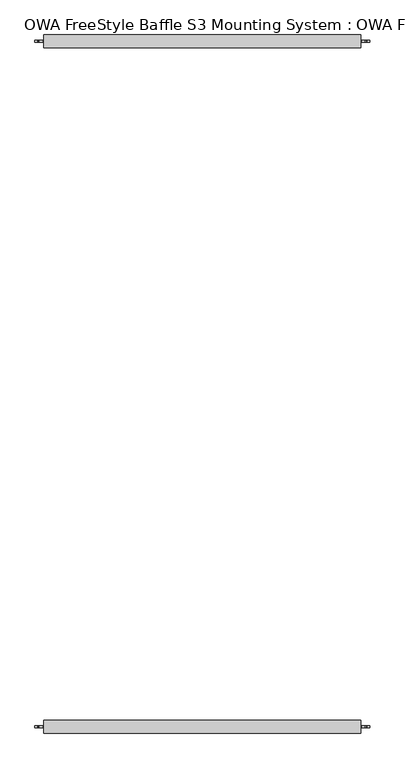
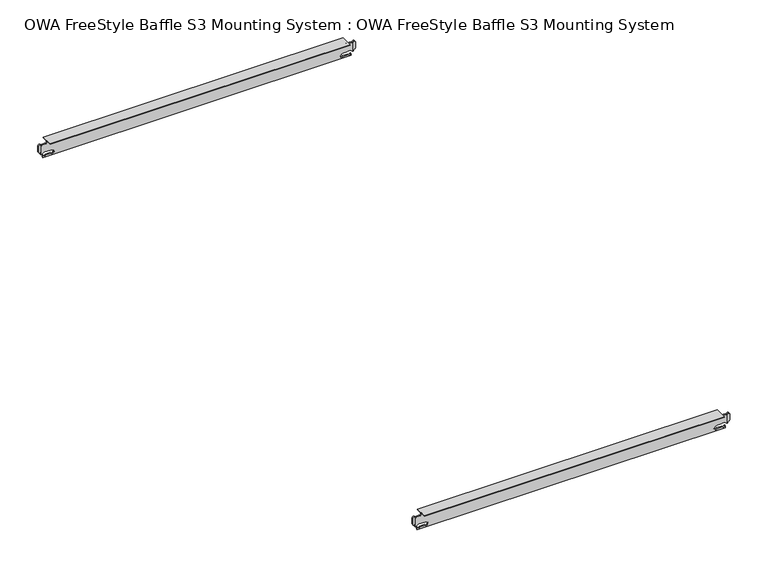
"""IFC4 building model written with IfcOpenShell, lengths in millimetres: proxy geometry, OWA FreeStyle Baffle S3 Mounting System : OWA FreeStyle Baffle S3 Mounting System."""

from ifc_helpers import new_model, si_unit, frame, origin, place, context, project, spatial, polyline, circle_curve, source, transform, mapped, element, save
from ifc_brep_helpers import plane_surface, cylinder_surface, revolved_surface, advanced_brep


def owa_freestyle_baffle_s3_mounting_system_owa_freestyle_baffle_da7934dc(model_context):
    return source(origin(), model_context, "Body", "AdvancedBrep", [
        advanced_brep(
        [(-733.95, -1501.5, 498.8), (-733.95, -1501.5, 496.0), (-735.45, -1501.5, 494.5), (-742.8857864, -1501.5, 494.5), (-744.8857864, -1501.5, 492.5), (-745.7, -1501.5, 492.5), (-745.7, -1501.5, 475.5), (-744.85, -1501.5, 475.5), (-741.35, -1501.5, 479.0), (-735.65, -1501.5, 479.0), (-734.75, -1501.5, 478.1), (-725.45, -1501.5, 478.1), (-720.4764351, -1501.5, 472.5865295), (-721.1954506, -1501.5, 471.0754978), (-723.7247963, -1501.5, 468.5461521), (-726.2283497, -1501.5, 471.0497055), (-735.9464466, -1501.5, 471.0497055), (-738.45, -1501.5, 468.5461521), (-740.9535534, -1501.5, 471.0497055), (-742.75, -1501.5, 471.0497055), (-742.75, -1501.5, 467.4497055), (-124.25, -1501.5, 467.4497055), (-124.25, -1501.5, 471.0497055), (-126.0464466, -1501.5, 471.0497055), (-128.55, -1501.5, 468.5461521), (-131.0535534, -1501.5, 471.0497055), (-140.7716503, -1501.5, 471.0497055), (-143.2752037, -1501.5, 468.5461521), (-145.8045494, -1501.5, 471.0754978), (-146.5235649, -1501.5, 472.5865295), (-141.55, -1501.5, 478.1), (-132.25, -1501.5, 478.1), (-131.35, -1501.5, 479.0), (-125.65, -1501.5, 479.0), (-122.15, -1501.5, 475.5), (-121.3, -1501.5, 475.5), (-121.3, -1501.5, 492.5), (-122.1142136, -1501.5, 492.5), (-124.1142136, -1501.5, 494.5), (-131.55, -1501.5, 494.5), (-133.05, -1501.5, 496.0), (-133.05, -1501.5, 498.8), (-133.05, -1498.5, 498.8), (-133.05, -1498.5, 496.0), (-131.55, -1498.5, 494.5), (-124.1142136, -1498.5, 494.5), (-122.1142136, -1498.5, 492.5), (-121.3, -1498.5, 492.5), (-121.3, -1498.5, 475.5), (-122.15, -1498.5, 475.5), (-125.65, -1498.5, 479.0), (-131.35, -1498.5, 479.0), (-132.25, -1498.5, 478.1), (-141.55, -1498.5, 478.1), (-146.5235649, -1498.5, 472.5865295), (-145.8045494, -1498.5, 471.0754978), (-143.2752037, -1498.5, 468.5461521), (-140.7716503, -1498.5, 471.0497055), (-131.0535534, -1498.5, 471.0497055), (-128.55, -1498.5, 468.5461521), (-126.0464466, -1498.5, 471.0497055), (-124.25, -1498.5, 471.0497055), (-124.25, -1498.5, 467.4497055), (-742.75, -1498.5, 467.4497055), (-742.75, -1498.5, 471.0497055), (-740.9535534, -1498.5, 471.0497055), (-738.45, -1498.5, 468.5461521), (-735.9464466, -1498.5, 471.0497055), (-726.2283497, -1498.5, 471.0497055), (-723.7247963, -1498.5, 468.5461521), (-721.1954506, -1498.5, 471.0754978), (-720.4764351, -1498.5, 472.5865295), (-725.45, -1498.5, 478.1), (-734.75, -1498.5, 478.1), (-735.65, -1498.5, 479.0), (-741.35, -1498.5, 479.0), (-744.85, -1498.5, 475.5), (-745.7, -1498.5, 475.5), (-745.7, -1498.5, 492.5), (-744.8857864, -1498.5, 492.5), (-742.8857864, -1498.5, 494.5), (-735.45, -1498.5, 494.5), (-733.95, -1498.5, 496.0), (-733.95, -1498.5, 498.8), (-733.95, -1512.0, 498.8), (-133.05, -1512.0, 498.8), (-133.05, -1512.0, 500.0), (-733.95, -1512.0, 500.0), (-733.95, -1488.0, 498.8), (-733.95, -1488.0, 500.0), (-133.05, -1488.0, 500.0), (-133.05, -1488.0, 498.8)],
        [
            (0, 1),
            (1, 2, circle_curve(frame((-735.45, -1501.5, 496.0), z_axis=(0.0, 1.0, 0.0), x_axis=(1.0, 0.0, 0.0)), 1.5)),
            (2, 3),
            (3, 4),
            (4, 5),
            (5, 6),
            (6, 7),
            (7, 8),
            (8, 9),
            (9, 10),
            (10, 11),
            (11, 12, circle_curve(frame((-725.45, -1501.5, 473.1), z_axis=(0.0, 1.0, 0.0), x_axis=(1.0, 0.0, 0.0)), 5.0)),
            (12, 13, circle_curve(frame((-722.9632175, -1501.5, 472.8432648), z_axis=(0.0, 1.0, 0.0), x_axis=(1.0, 0.0, 0.0)), 2.5)),
            (13, 14),
            (14, 15),
            (15, 16),
            (16, 17),
            (17, 18),
            (18, 19),
            (19, 20),
            (20, 21),
            (21, 22),
            (22, 23),
            (23, 24),
            (24, 25),
            (25, 26),
            (26, 27),
            (27, 28),
            (28, 29, circle_curve(frame((-144.0367825, -1501.5, 472.8432648), z_axis=(0.0, 1.0, 0.0), x_axis=(-1.0, 0.0, 0.0)), 2.5)),
            (29, 30, circle_curve(frame((-141.55, -1501.5, 473.1), z_axis=(0.0, 1.0, 0.0), x_axis=(-1.0, 0.0, 0.0)), 5.0)),
            (30, 31),
            (31, 32),
            (32, 33),
            (33, 34),
            (34, 35),
            (35, 36),
            (36, 37),
            (37, 38),
            (38, 39),
            (39, 40, circle_curve(frame((-131.55, -1501.5, 496.0), z_axis=(0.0, 1.0, 0.0), x_axis=(-1.0, 0.0, 0.0)), 1.5)),
            (40, 41),
            (41, 0),
            (42, 43),
            (43, 44, circle_curve(frame((-131.55, -1498.5, 496.0), z_axis=(0.0, -1.0, 0.0), x_axis=(-1.0, 0.0, 0.0)), 1.5)),
            (44, 45),
            (45, 46),
            (46, 47),
            (47, 48),
            (48, 49),
            (49, 50),
            (50, 51),
            (51, 52),
            (52, 53),
            (53, 54, circle_curve(frame((-141.55, -1498.5, 473.1), z_axis=(0.0, -1.0, 0.0), x_axis=(-1.0, 0.0, 0.0)), 5.0)),
            (54, 55, circle_curve(frame((-144.0367825, -1498.5, 472.8432648), z_axis=(0.0, -1.0, 0.0), x_axis=(-1.0, 0.0, 0.0)), 2.5)),
            (55, 56),
            (56, 57),
            (57, 58),
            (58, 59),
            (59, 60),
            (60, 61),
            (61, 62),
            (62, 63),
            (63, 64),
            (64, 65),
            (65, 66),
            (66, 67),
            (67, 68),
            (68, 69),
            (69, 70),
            (70, 71, circle_curve(frame((-722.9632175, -1498.5, 472.8432648), z_axis=(0.0, -1.0, 0.0), x_axis=(1.0, 0.0, 0.0)), 2.5)),
            (71, 72, circle_curve(frame((-725.45, -1498.5, 473.1), z_axis=(0.0, -1.0, 0.0), x_axis=(1.0, 0.0, 0.0)), 5.0)),
            (72, 73),
            (73, 74),
            (74, 75),
            (75, 76),
            (76, 77),
            (77, 78),
            (78, 79),
            (79, 80),
            (80, 81),
            (81, 82, circle_curve(frame((-735.45, -1498.5, 496.0), z_axis=(0.0, -1.0, 0.0), x_axis=(1.0, 0.0, 0.0)), 1.5)),
            (82, 83),
            (83, 42),
            (84, 85),
            (85, 86),
            (86, 87),
            (87, 84),
            (88, 89),
            (89, 90),
            (90, 91),
            (91, 88),
            (84, 0),
            (41, 85),
            (91, 42),
            (83, 88),
            (20, 63),
            (62, 21),
            (86, 90),
            (89, 87),
            (82, 1),
            (81, 2),
            (80, 3),
            (79, 4),
            (78, 5),
            (77, 6),
            (76, 7),
            (75, 8),
            (74, 9),
            (73, 10),
            (72, 11),
            (71, 12),
            (70, 13),
            (69, 14),
            (68, 15),
            (67, 16),
            (66, 17),
            (65, 18),
            (64, 19),
            (61, 22),
            (60, 23),
            (59, 24),
            (58, 25),
            (57, 26),
            (56, 27),
            (55, 28),
            (54, 29),
            (53, 30),
            (52, 31),
            (51, 32),
            (50, 33),
            (49, 34),
            (48, 35),
            (47, 36),
            (46, 37),
            (45, 38),
            (44, 39),
            (43, 40),
        ],
        [
            plane_surface(frame((-733.95, -1501.5, 496.0), z_axis=(0.0, -1.0, 0.0), x_axis=(0.0, 0.0, -1.0))),
            plane_surface(frame((-733.95, -1498.5, 496.0), z_axis=(0.0, 1.0, 0.0), x_axis=(0.0, 0.0, 1.0))),
            plane_surface(frame((-133.0, -1512.0, 498.8), z_axis=(0.0, -1.0, 0.0), x_axis=(1.0, 0.0, 0.0))),
            plane_surface(frame((-133.0, -1488.0, 498.8), z_axis=(0.0, 1.0, 0.0), x_axis=(-1.0, 0.0, 0.0))),
            plane_surface(frame((-733.95, -1512.0, 498.8), z_axis=(0.0, 0.0, -1.0), x_axis=(0.0, 1.0, 0.0))),
            plane_surface(frame((-742.75, -1501.5, 467.4497055), z_axis=(0.0, 0.0, -1.0), x_axis=(0.0, 1.0, 0.0))),
            plane_surface(frame((-133.05, -1512.0, 500.0), z_axis=(0.0, 0.0, 1.0), x_axis=(0.0, 1.0, 0.0))),
            plane_surface(frame((-733.95, -1501.5, 498.8), z_axis=(-1.0, 0.0, 0.0), x_axis=(0.0, 1.0, 0.0))),
            revolved_surface(polyline([(-733.95, -1498.5, 496.0), (-733.95, -1501.5, 496.0)]), (-735.45, -1498.5, 496.0), (0.0, 1.0, 0.0)),
            plane_surface(frame((-735.45, -1501.5, 494.5), z_axis=(0.0, 0.0, 1.0), x_axis=(0.0, 1.0, 0.0))),
            plane_surface(frame((-742.8857864, -1501.5, 494.5), z_axis=(-0.7071067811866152, 0.0, 0.7071067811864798), x_axis=(0.0, 1.0, 0.0))),
            plane_surface(frame((-744.8857864, -1501.5, 492.5), z_axis=(0.0, 0.0, 1.0), x_axis=(0.0, 1.0, 0.0))),
            plane_surface(frame((-745.7, -1501.5, 492.5), z_axis=(-1.0, 0.0, 0.0), x_axis=(0.0, 1.0, 0.0))),
            plane_surface(frame((-745.7, -1501.5, 475.5), z_axis=(0.0, 0.0, -1.0), x_axis=(0.0, 1.0, 0.0))),
            plane_surface(frame((-744.85, -1501.5, 475.5), z_axis=(0.707106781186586, 0.0, -0.707106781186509), x_axis=(0.0, 1.0, 0.0))),
            plane_surface(frame((-741.35, -1501.5, 479.0), z_axis=(0.0, 0.0, -1.0), x_axis=(0.0, 1.0, 0.0))),
            plane_surface(frame((-735.65, -1501.5, 479.0), z_axis=(-0.707106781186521, 0.0, -0.7071067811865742), x_axis=(0.0, 1.0, 0.0))),
            plane_surface(frame((-734.75, -1501.5, 478.1), z_axis=(0.0, 0.0, -1.0), x_axis=(0.0, 1.0, 0.0))),
            revolved_surface(polyline([(-720.45, -1498.5, 473.1), (-720.45, -1501.5, 473.1)]), (-725.45, -1498.5, 473.1), (0.0, 1.0, 0.0)),
            revolved_surface(polyline([(-720.4632175, -1498.5, 472.8432648), (-720.4632175, -1501.5, 472.8432648)]), (-722.9632175, -1498.5, 472.8432648), (0.0, 1.0, 0.0)),
            plane_surface(frame((-721.1954506, -1501.5, 471.0754978), z_axis=(-0.707106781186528, 0.0, 0.7071067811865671), x_axis=(0.0, 1.0, 0.0))),
            plane_surface(frame((-723.7247963, -1501.5, 468.5461521), z_axis=(0.7071067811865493, 0.0, 0.7071067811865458), x_axis=(0.0, 1.0, 0.0))),
            plane_surface(frame((-726.2283497, -1501.5, 471.0497055), z_axis=(0.0, 0.0, 1.0), x_axis=(0.0, 1.0, 0.0))),
            plane_surface(frame((-735.9464466, -1501.5, 471.0497055), z_axis=(-0.7071067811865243, 0.0, 0.7071067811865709), x_axis=(0.0, 1.0, 0.0))),
            plane_surface(frame((-738.45, -1501.5, 468.5461521), z_axis=(0.7071067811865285, 0.0, 0.7071067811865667), x_axis=(0.0, 1.0, 0.0))),
            plane_surface(frame((-740.9535534, -1501.5, 471.0497055), z_axis=(0.0, 0.0, 1.0), x_axis=(0.0, 1.0, 0.0))),
            plane_surface(frame((-742.75, -1501.5, 471.0497055), z_axis=(-1.0, 0.0, 0.0), x_axis=(0.0, 1.0, 0.0))),
            plane_surface(frame((-124.25, -1501.5, 467.4497055), z_axis=(1.0, 0.0, 0.0), x_axis=(0.0, 1.0, 0.0))),
            plane_surface(frame((-124.25, -1501.5, 471.0497055), z_axis=(0.0, 0.0, 1.0), x_axis=(0.0, 1.0, 0.0))),
            plane_surface(frame((-126.0464466, -1501.5, 471.0497055), z_axis=(-0.7071067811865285, 0.0, 0.7071067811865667), x_axis=(0.0, 1.0, 0.0))),
            plane_surface(frame((-128.55, -1501.5, 468.5461521), z_axis=(0.7071067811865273, 0.0, 0.7071067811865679), x_axis=(0.0, 1.0, 0.0))),
            plane_surface(frame((-131.0535534, -1501.5, 471.0497055), z_axis=(0.0, 0.0, 1.0), x_axis=(0.0, 1.0, 0.0))),
            plane_surface(frame((-140.7716503, -1501.5, 471.0497055), z_axis=(-0.7071067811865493, 0.0, 0.7071067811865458), x_axis=(0.0, 1.0, 0.0))),
            plane_surface(frame((-143.2752037, -1501.5, 468.5461521), z_axis=(0.7071067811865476, 0.0, 0.7071067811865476), x_axis=(0.0, 1.0, 0.0))),
            revolved_surface(polyline([(-146.5367825, -1498.5, 472.8432648), (-146.5367825, -1501.5, 472.8432648)]), (-144.0367825, -1498.5, 472.8432648), (0.0, 1.0, 0.0)),
            revolved_surface(polyline([(-146.55, -1498.5, 473.1), (-146.55, -1501.5, 473.1)]), (-141.55, -1498.5, 473.1), (0.0, 1.0, 0.0)),
            plane_surface(frame((-141.55, -1501.5, 478.1), z_axis=(0.0, 0.0, -1.0), x_axis=(0.0, 1.0, 0.0))),
            plane_surface(frame((-132.25, -1501.5, 478.1), z_axis=(0.707106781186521, 0.0, -0.7071067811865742), x_axis=(0.0, 1.0, 0.0))),
            plane_surface(frame((-131.35, -1501.5, 479.0), z_axis=(0.0, 0.0, -1.0), x_axis=(0.0, 1.0, 0.0))),
            plane_surface(frame((-125.65, -1501.5, 479.0), z_axis=(-0.7071067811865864, 0.0, -0.7071067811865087), x_axis=(0.0, 1.0, 0.0))),
            plane_surface(frame((-122.15, -1501.5, 475.5), z_axis=(0.0, 0.0, -1.0), x_axis=(0.0, 1.0, 0.0))),
            plane_surface(frame((-121.3, -1501.5, 475.5), z_axis=(1.0, 0.0, 0.0), x_axis=(0.0, 1.0, 0.0))),
            plane_surface(frame((-121.3, -1501.5, 492.5), z_axis=(0.0, 0.0, 1.0), x_axis=(0.0, 1.0, 0.0))),
            plane_surface(frame((-122.1142136, -1501.5, 492.5), z_axis=(0.7071067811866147, 0.0, 0.7071067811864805), x_axis=(0.0, 1.0, 0.0))),
            plane_surface(frame((-124.1142136, -1501.5, 494.5), z_axis=(0.0, 0.0, 1.0), x_axis=(0.0, 1.0, 0.0))),
            revolved_surface(polyline([(-133.05, -1498.5, 496.0), (-133.05, -1501.5, 496.0)]), (-131.55, -1498.5, 496.0), (0.0, 1.0, 0.0)),
            plane_surface(frame((-133.05, -1501.5, 496.0), z_axis=(1.0, 0.0, 0.0), x_axis=(0.0, 1.0, 0.0))),
        ],
        [
            (0, [[1, 2, 3, 4, 5, 6, 7, 8, 9, 10, 11, 12, 13, 14, 15, 16, 17, 18, 19, 20, 21, 22, 23, 24, 25, 26, 27, 28, 29, 30, 31, 32, 33, 34, 35, 36, 37, 38, 39, 40, 41, 42]]),
            (1, [[43, 44, 45, 46, 47, 48, 49, 50, 51, 52, 53, 54, 55, 56, 57, 58, 59, 60, 61, 62, 63, 64, 65, 66, 67, 68, 69, 70, 71, 72, 73, 74, 75, 76, 77, 78, 79, 80, 81, 82, 83, 84]]),
            (2, [[85, 86, 87, 88]]),
            (3, [[89, 90, 91, 92]]),
            (4, [[-85, 93, -42, 94]]),
            (4, [[-92, 95, -84, 96]]),
            (5, [[-21, 97, -63, 98]]),
            (6, [[-87, 99, -90, 100]]),
            (7, [[-1, -93, -88, -100, -89, -96, -83, 101]]),
            (8, [[-2, -101, -82, 102]]),
            (9, [[-3, -102, -81, 103]]),
            (10, [[-4, -103, -80, 104]]),
            (11, [[-5, -104, -79, 105]]),
            (12, [[-6, -105, -78, 106]]),
            (13, [[-7, -106, -77, 107]]),
            (14, [[-8, -107, -76, 108]]),
            (15, [[-9, -108, -75, 109]]),
            (16, [[-10, -109, -74, 110]]),
            (17, [[-11, -110, -73, 111]]),
            (18, [[-12, -111, -72, 112]]),
            (19, [[-13, -112, -71, 113]]),
            (20, [[-14, -113, -70, 114]]),
            (21, [[-15, -114, -69, 115]]),
            (22, [[-16, -115, -68, 116]]),
            (23, [[-17, -116, -67, 117]]),
            (24, [[-18, -117, -66, 118]]),
            (25, [[-19, -118, -65, 119]]),
            (26, [[-20, -119, -64, -97]]),
            (27, [[-22, -98, -62, 120]]),
            (28, [[-23, -120, -61, 121]]),
            (29, [[-24, -121, -60, 122]]),
            (30, [[-25, -122, -59, 123]]),
            (31, [[-26, -123, -58, 124]]),
            (32, [[-27, -124, -57, 125]]),
            (33, [[-28, -125, -56, 126]]),
            (34, [[-29, -126, -55, 127]]),
            (35, [[-30, -127, -54, 128]]),
            (36, [[-31, -128, -53, 129]]),
            (37, [[-32, -129, -52, 130]]),
            (38, [[-33, -130, -51, 131]]),
            (39, [[-34, -131, -50, 132]]),
            (40, [[-35, -132, -49, 133]]),
            (41, [[-36, -133, -48, 134]]),
            (42, [[-37, -134, -47, 135]]),
            (43, [[-38, -135, -46, 136]]),
            (44, [[-39, -136, -45, 137]]),
            (45, [[-40, -137, -44, 138]]),
            (46, [[-41, -138, -43, -95, -91, -99, -86, -94]]),
        ],
    ),
        advanced_brep(
        [(-750.95, -1501.5, 493.7), (-750.95, -1501.5, 481.3), (-748.8268982, -1501.5, 479.3037921), (-747.2752053, -1501.5, 477.844841), (-747.2752053, -1501.5, 475.5), (-746.3, -1501.5, 475.5), (-746.3, -1501.5, 493.7), (-750.95, -1498.5, 493.7), (-746.3, -1498.5, 493.7), (-746.3, -1498.5, 475.5), (-747.2752053, -1498.5, 475.5), (-747.2752053, -1498.5, 477.844841), (-748.8268982, -1498.5, 479.3037921), (-750.95, -1498.5, 481.3)],
        [
            (0, 1),
            (1, 2, circle_curve(frame((-748.95, -1501.5, 481.3), z_axis=(0.0, -1.0, 0.0), x_axis=(1.0, 0.0, 0.0)), 2.0)),
            (2, 3, circle_curve(frame((-748.7369279, -1501.5, 477.844841), z_axis=(0.0, 1.0, 0.0), x_axis=(-1.0, 0.0, 0.0)), 1.4617226)),
            (3, 4),
            (4, 5),
            (5, 6),
            (6, 0, circle_curve(frame((-748.625, -1501.5, 493.7), z_axis=(0.0, -1.0, 0.0), x_axis=(-1.0, 0.0, 0.0)), 2.325)),
            (7, 8, circle_curve(frame((-748.625, -1498.5, 493.7), z_axis=(0.0, 1.0, 0.0), x_axis=(-1.0, 0.0, 0.0)), 2.325)),
            (8, 9),
            (9, 10),
            (10, 11),
            (11, 12, circle_curve(frame((-748.7369279, -1498.5, 477.844841), z_axis=(0.0, -1.0, 0.0), x_axis=(-1.0, 0.0, 0.0)), 1.4617226)),
            (12, 13, circle_curve(frame((-748.95, -1498.5, 481.3), z_axis=(0.0, 1.0, 0.0), x_axis=(1.0, 0.0, 0.0)), 2.0)),
            (13, 7),
            (0, 7),
            (13, 1),
            (12, 2),
            (11, 3),
            (10, 4),
            (9, 5),
            (8, 6),
        ],
        [
            plane_surface(frame((-733.95, -1501.5, 496.0), z_axis=(0.0, -1.0, 0.0), x_axis=(0.0, 0.0, -1.0))),
            plane_surface(frame((-733.95, -1498.5, 496.0), z_axis=(0.0, 1.0, 0.0), x_axis=(0.0, 0.0, 1.0))),
            plane_surface(frame((-750.95, -1501.5, 493.7), z_axis=(-1.0, 0.0, 0.0), x_axis=(0.0, 1.0, 0.0))),
            cylinder_surface(frame((-748.95, -1500.0, 481.3), z_axis=(0.0, -1.0, 0.0), x_axis=(1.0, 0.0, 0.0)), 2.0),
            revolved_surface(polyline([(-750.1986505, -1498.5, 477.844841), (-750.1986505, -1501.5, 477.844841)]), (-748.7369279, -1500.0, 477.844841), (0.0, 1.0, 0.0)),
            plane_surface(frame((-747.2752053, -1501.5, 477.844841), z_axis=(-1.0, 0.0, 0.0), x_axis=(0.0, 1.0, 0.0))),
            plane_surface(frame((-747.2752053, -1501.5, 475.5), z_axis=(0.0, 0.0, -1.0), x_axis=(0.0, 1.0, 0.0))),
            plane_surface(frame((-746.3, -1501.5, 475.5), z_axis=(1.0, 0.0, 0.0), x_axis=(0.0, 1.0, 0.0))),
            cylinder_surface(frame((-748.625, -1500.0, 493.7), z_axis=(0.0, -1.0, 0.0), x_axis=(-1.0, 0.0, 0.0)), 2.325),
        ],
        [
            (0, [[1, 2, 3, 4, 5, 6, 7]]),
            (1, [[8, 9, 10, 11, 12, 13, 14]]),
            (2, [[-1, 15, -14, 16]]),
            (3, [[-2, -16, -13, 17]]),
            (4, [[-3, -17, -12, 18]]),
            (5, [[-4, -18, -11, 19]]),
            (6, [[-5, -19, -10, 20]]),
            (7, [[-6, -20, -9, 21]]),
            (8, [[-7, -21, -8, -15]]),
        ],
    ),
        advanced_brep(
        [(-116.05, -1501.5, 493.7), (-120.7, -1501.5, 493.7), (-120.7, -1501.5, 475.5), (-119.7247947, -1501.5, 475.5), (-119.7247947, -1501.5, 477.844841), (-118.1731018, -1501.5, 479.3037921), (-116.05, -1501.5, 481.3), (-116.05, -1498.5, 493.7), (-116.05, -1498.5, 481.3), (-118.1731018, -1498.5, 479.3037921), (-119.7247947, -1498.5, 477.844841), (-119.7247947, -1498.5, 475.5), (-120.7, -1498.5, 475.5), (-120.7, -1498.5, 493.7)],
        [
            (0, 1, circle_curve(frame((-118.375, -1501.5, 493.7), z_axis=(0.0, -1.0, 0.0), x_axis=(1.0, 0.0, 0.0)), 2.325)),
            (1, 2),
            (2, 3),
            (3, 4),
            (4, 5, circle_curve(frame((-118.2630721, -1501.5, 477.844841), z_axis=(0.0, 1.0, 0.0), x_axis=(1.0, 0.0, 0.0)), 1.4617226)),
            (5, 6, circle_curve(frame((-118.05, -1501.5, 481.3), z_axis=(0.0, -1.0, 0.0), x_axis=(-1.0, 0.0, 0.0)), 2.0)),
            (6, 0),
            (7, 8),
            (8, 9, circle_curve(frame((-118.05, -1498.5, 481.3), z_axis=(0.0, 1.0, 0.0), x_axis=(-1.0, 0.0, 0.0)), 2.0)),
            (9, 10, circle_curve(frame((-118.2630721, -1498.5, 477.844841), z_axis=(0.0, -1.0, 0.0), x_axis=(1.0, 0.0, 0.0)), 1.4617226)),
            (10, 11),
            (11, 12),
            (12, 13),
            (13, 7, circle_curve(frame((-118.375, -1498.5, 493.7), z_axis=(0.0, 1.0, 0.0), x_axis=(1.0, 0.0, 0.0)), 2.325)),
            (0, 7),
            (13, 1),
            (12, 2),
            (11, 3),
            (10, 4),
            (9, 5),
            (8, 6),
        ],
        [
            plane_surface(frame((-733.95, -1501.5, 496.0), z_axis=(0.0, -1.0, 0.0), x_axis=(0.0, 0.0, -1.0))),
            plane_surface(frame((-733.95, -1498.5, 496.0), z_axis=(0.0, 1.0, 0.0), x_axis=(0.0, 0.0, 1.0))),
            cylinder_surface(frame((-118.375, -1500.0, 493.7), z_axis=(0.0, -1.0, 0.0), x_axis=(1.0, 0.0, 0.0)), 2.325),
            plane_surface(frame((-120.7, -1501.5, 493.7), z_axis=(-1.0, 0.0, 0.0), x_axis=(0.0, 1.0, 0.0))),
            plane_surface(frame((-120.7, -1501.5, 475.5), z_axis=(0.0, 0.0, -1.0), x_axis=(0.0, 1.0, 0.0))),
            plane_surface(frame((-119.7247947, -1501.5, 475.5), z_axis=(1.0, 0.0, 0.0), x_axis=(0.0, 1.0, 0.0))),
            revolved_surface(polyline([(-116.8013495, -1498.5, 477.844841), (-116.8013495, -1501.5, 477.844841)]), (-118.2630721, -1500.0, 477.844841), (0.0, 1.0, 0.0)),
            cylinder_surface(frame((-118.05, -1500.0, 481.3), z_axis=(0.0, -1.0, 0.0), x_axis=(-1.0, 0.0, 0.0)), 2.0),
            plane_surface(frame((-116.05, -1501.5, 481.3), z_axis=(1.0, 0.0, 0.0), x_axis=(0.0, 1.0, 0.0))),
        ],
        [
            (0, [[1, 2, 3, 4, 5, 6, 7]]),
            (1, [[8, 9, 10, 11, 12, 13, 14]]),
            (2, [[-1, 15, -14, 16]]),
            (3, [[-2, -16, -13, 17]]),
            (4, [[-3, -17, -12, 18]]),
            (5, [[-4, -18, -11, 19]]),
            (6, [[-5, -19, -10, 20]]),
            (7, [[-6, -20, -9, 21]]),
            (8, [[-7, -21, -8, -15]]),
        ],
    ),
        advanced_brep(
        [(-733.95, -2801.5, 498.8), (-733.95, -2801.5, 496.0), (-735.45, -2801.5, 494.5), (-742.8857864, -2801.5, 494.5), (-744.8857864, -2801.5, 492.5), (-745.7, -2801.5, 492.5), (-745.7, -2801.5, 475.5), (-744.85, -2801.5, 475.5), (-741.35, -2801.5, 479.0), (-735.65, -2801.5, 479.0), (-734.75, -2801.5, 478.1), (-725.45, -2801.5, 478.1), (-720.4764351, -2801.5, 472.5865295), (-721.1954506, -2801.5, 471.0754978), (-723.7247963, -2801.5, 468.5461521), (-726.2283497, -2801.5, 471.0497055), (-735.9464466, -2801.5, 471.0497055), (-738.45, -2801.5, 468.5461521), (-740.9535534, -2801.5, 471.0497055), (-742.75, -2801.5, 471.0497055), (-742.75, -2801.5, 467.4497055), (-124.25, -2801.5, 467.4497055), (-124.25, -2801.5, 471.0497055), (-126.0464466, -2801.5, 471.0497055), (-128.55, -2801.5, 468.5461521), (-131.0535534, -2801.5, 471.0497055), (-140.7716503, -2801.5, 471.0497055), (-143.2752037, -2801.5, 468.5461521), (-145.8045494, -2801.5, 471.0754978), (-146.5235649, -2801.5, 472.5865295), (-141.55, -2801.5, 478.1), (-132.25, -2801.5, 478.1), (-131.35, -2801.5, 479.0), (-125.65, -2801.5, 479.0), (-122.15, -2801.5, 475.5), (-121.3, -2801.5, 475.5), (-121.3, -2801.5, 492.5), (-122.1142136, -2801.5, 492.5), (-124.1142136, -2801.5, 494.5), (-131.55, -2801.5, 494.5), (-133.05, -2801.5, 496.0), (-133.05, -2801.5, 498.8), (-133.05, -2798.5, 498.8), (-133.05, -2798.5, 496.0), (-131.55, -2798.5, 494.5), (-124.1142136, -2798.5, 494.5), (-122.1142136, -2798.5, 492.5), (-121.3, -2798.5, 492.5), (-121.3, -2798.5, 475.5), (-122.15, -2798.5, 475.5), (-125.65, -2798.5, 479.0), (-131.35, -2798.5, 479.0), (-132.25, -2798.5, 478.1), (-141.55, -2798.5, 478.1), (-146.5235649, -2798.5, 472.5865295), (-145.8045494, -2798.5, 471.0754978), (-143.2752037, -2798.5, 468.5461521), (-140.7716503, -2798.5, 471.0497055), (-131.0535534, -2798.5, 471.0497055), (-128.55, -2798.5, 468.5461521), (-126.0464466, -2798.5, 471.0497055), (-124.25, -2798.5, 471.0497055), (-124.25, -2798.5, 467.4497055), (-742.75, -2798.5, 467.4497055), (-742.75, -2798.5, 471.0497055), (-740.9535534, -2798.5, 471.0497055), (-738.45, -2798.5, 468.5461521), (-735.9464466, -2798.5, 471.0497055), (-726.2283497, -2798.5, 471.0497055), (-723.7247963, -2798.5, 468.5461521), (-721.1954506, -2798.5, 471.0754978), (-720.4764351, -2798.5, 472.5865295), (-725.45, -2798.5, 478.1), (-734.75, -2798.5, 478.1), (-735.65, -2798.5, 479.0), (-741.35, -2798.5, 479.0), (-744.85, -2798.5, 475.5), (-745.7, -2798.5, 475.5), (-745.7, -2798.5, 492.5), (-744.8857864, -2798.5, 492.5), (-742.8857864, -2798.5, 494.5), (-735.45, -2798.5, 494.5), (-733.95, -2798.5, 496.0), (-733.95, -2798.5, 498.8), (-733.95, -2812.0, 498.8), (-133.05, -2812.0, 498.8), (-133.05, -2812.0, 500.0), (-733.95, -2812.0, 500.0), (-733.95, -2788.0, 498.8), (-733.95, -2788.0, 500.0), (-133.05, -2788.0, 500.0), (-133.05, -2788.0, 498.8)],
        [
            (0, 1),
            (1, 2, circle_curve(frame((-735.45, -2801.5, 496.0), z_axis=(0.0, 1.0, 0.0), x_axis=(1.0, 0.0, 0.0)), 1.5)),
            (2, 3),
            (3, 4),
            (4, 5),
            (5, 6),
            (6, 7),
            (7, 8),
            (8, 9),
            (9, 10),
            (10, 11),
            (11, 12, circle_curve(frame((-725.45, -2801.5, 473.1), z_axis=(0.0, 1.0, 0.0), x_axis=(1.0, 0.0, 0.0)), 5.0)),
            (12, 13, circle_curve(frame((-722.9632175, -2801.5, 472.8432648), z_axis=(0.0, 1.0, 0.0), x_axis=(1.0, 0.0, 0.0)), 2.5)),
            (13, 14),
            (14, 15),
            (15, 16),
            (16, 17),
            (17, 18),
            (18, 19),
            (19, 20),
            (20, 21),
            (21, 22),
            (22, 23),
            (23, 24),
            (24, 25),
            (25, 26),
            (26, 27),
            (27, 28),
            (28, 29, circle_curve(frame((-144.0367825, -2801.5, 472.8432648), z_axis=(0.0, 1.0, 0.0), x_axis=(-1.0, 0.0, 0.0)), 2.5)),
            (29, 30, circle_curve(frame((-141.55, -2801.5, 473.1), z_axis=(0.0, 1.0, 0.0), x_axis=(-1.0, 0.0, 0.0)), 5.0)),
            (30, 31),
            (31, 32),
            (32, 33),
            (33, 34),
            (34, 35),
            (35, 36),
            (36, 37),
            (37, 38),
            (38, 39),
            (39, 40, circle_curve(frame((-131.55, -2801.5, 496.0), z_axis=(0.0, 1.0, 0.0), x_axis=(-1.0, 0.0, 0.0)), 1.5)),
            (40, 41),
            (41, 0),
            (42, 43),
            (43, 44, circle_curve(frame((-131.55, -2798.5, 496.0), z_axis=(0.0, -1.0, 0.0), x_axis=(-1.0, 0.0, 0.0)), 1.5)),
            (44, 45),
            (45, 46),
            (46, 47),
            (47, 48),
            (48, 49),
            (49, 50),
            (50, 51),
            (51, 52),
            (52, 53),
            (53, 54, circle_curve(frame((-141.55, -2798.5, 473.1), z_axis=(0.0, -1.0, 0.0), x_axis=(-1.0, 0.0, 0.0)), 5.0)),
            (54, 55, circle_curve(frame((-144.0367825, -2798.5, 472.8432648), z_axis=(0.0, -1.0, 0.0), x_axis=(-1.0, 0.0, 0.0)), 2.5)),
            (55, 56),
            (56, 57),
            (57, 58),
            (58, 59),
            (59, 60),
            (60, 61),
            (61, 62),
            (62, 63),
            (63, 64),
            (64, 65),
            (65, 66),
            (66, 67),
            (67, 68),
            (68, 69),
            (69, 70),
            (70, 71, circle_curve(frame((-722.9632175, -2798.5, 472.8432648), z_axis=(0.0, -1.0, 0.0), x_axis=(1.0, 0.0, 0.0)), 2.5)),
            (71, 72, circle_curve(frame((-725.45, -2798.5, 473.1), z_axis=(0.0, -1.0, 0.0), x_axis=(1.0, 0.0, 0.0)), 5.0)),
            (72, 73),
            (73, 74),
            (74, 75),
            (75, 76),
            (76, 77),
            (77, 78),
            (78, 79),
            (79, 80),
            (80, 81),
            (81, 82, circle_curve(frame((-735.45, -2798.5, 496.0), z_axis=(0.0, -1.0, 0.0), x_axis=(1.0, 0.0, 0.0)), 1.5)),
            (82, 83),
            (83, 42),
            (84, 85),
            (85, 86),
            (86, 87),
            (87, 84),
            (88, 89),
            (89, 90),
            (90, 91),
            (91, 88),
            (84, 0),
            (41, 85),
            (91, 42),
            (83, 88),
            (20, 63),
            (62, 21),
            (86, 90),
            (89, 87),
            (82, 1),
            (81, 2),
            (80, 3),
            (79, 4),
            (78, 5),
            (77, 6),
            (76, 7),
            (75, 8),
            (74, 9),
            (73, 10),
            (72, 11),
            (71, 12),
            (70, 13),
            (69, 14),
            (68, 15),
            (67, 16),
            (66, 17),
            (65, 18),
            (64, 19),
            (61, 22),
            (60, 23),
            (59, 24),
            (58, 25),
            (57, 26),
            (56, 27),
            (55, 28),
            (54, 29),
            (53, 30),
            (52, 31),
            (51, 32),
            (50, 33),
            (49, 34),
            (48, 35),
            (47, 36),
            (46, 37),
            (45, 38),
            (44, 39),
            (43, 40),
        ],
        [
            plane_surface(frame((-733.95, -2801.5, 496.0), z_axis=(0.0, -1.0, 0.0), x_axis=(0.0, 0.0, -1.0))),
            plane_surface(frame((-733.95, -2798.5, 496.0), z_axis=(0.0, 1.0, 0.0), x_axis=(0.0, 0.0, 1.0))),
            plane_surface(frame((-133.0, -2812.0, 498.8), z_axis=(0.0, -1.0, 0.0), x_axis=(1.0, 0.0, 0.0))),
            plane_surface(frame((-133.0, -2788.0, 498.8), z_axis=(0.0, 1.0, 0.0), x_axis=(-1.0, 0.0, 0.0))),
            plane_surface(frame((-733.95, -2812.0, 498.8), z_axis=(0.0, 0.0, -1.0), x_axis=(0.0, 1.0, 0.0))),
            plane_surface(frame((-742.75, -2801.5, 467.4497055), z_axis=(0.0, 0.0, -1.0), x_axis=(0.0, 1.0, 0.0))),
            plane_surface(frame((-133.05, -2812.0, 500.0), z_axis=(0.0, 0.0, 1.0), x_axis=(0.0, 1.0, 0.0))),
            plane_surface(frame((-733.95, -2801.5, 498.8), z_axis=(-1.0, 0.0, 0.0), x_axis=(0.0, 1.0, 0.0))),
            revolved_surface(polyline([(-733.95, -2798.5, 496.0), (-733.95, -2801.5, 496.0)]), (-735.45, -2798.5, 496.0), (0.0, 1.0, 0.0)),
            plane_surface(frame((-735.45, -2801.5, 494.5), z_axis=(0.0, 0.0, 1.0), x_axis=(0.0, 1.0, 0.0))),
            plane_surface(frame((-742.8857864, -2801.5, 494.5), z_axis=(-0.7071067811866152, 0.0, 0.7071067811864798), x_axis=(0.0, 1.0, 0.0))),
            plane_surface(frame((-744.8857864, -2801.5, 492.5), z_axis=(0.0, 0.0, 1.0), x_axis=(0.0, 1.0, 0.0))),
            plane_surface(frame((-745.7, -2801.5, 492.5), z_axis=(-1.0, 0.0, 0.0), x_axis=(0.0, 1.0, 0.0))),
            plane_surface(frame((-745.7, -2801.5, 475.5), z_axis=(0.0, 0.0, -1.0), x_axis=(0.0, 1.0, 0.0))),
            plane_surface(frame((-744.85, -2801.5, 475.5), z_axis=(0.707106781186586, 0.0, -0.707106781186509), x_axis=(0.0, 1.0, 0.0))),
            plane_surface(frame((-741.35, -2801.5, 479.0), z_axis=(0.0, 0.0, -1.0), x_axis=(0.0, 1.0, 0.0))),
            plane_surface(frame((-735.65, -2801.5, 479.0), z_axis=(-0.707106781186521, 0.0, -0.7071067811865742), x_axis=(0.0, 1.0, 0.0))),
            plane_surface(frame((-734.75, -2801.5, 478.1), z_axis=(0.0, 0.0, -1.0), x_axis=(0.0, 1.0, 0.0))),
            revolved_surface(polyline([(-720.45, -2798.5, 473.1), (-720.45, -2801.5, 473.1)]), (-725.45, -2798.5, 473.1), (0.0, 1.0, 0.0)),
            revolved_surface(polyline([(-720.4632175, -2798.5, 472.8432648), (-720.4632175, -2801.5, 472.8432648)]), (-722.9632175, -2798.5, 472.8432648), (0.0, 1.0, 0.0)),
            plane_surface(frame((-721.1954506, -2801.5, 471.0754978), z_axis=(-0.707106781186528, 0.0, 0.7071067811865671), x_axis=(0.0, 1.0, 0.0))),
            plane_surface(frame((-723.7247963, -2801.5, 468.5461521), z_axis=(0.7071067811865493, 0.0, 0.7071067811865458), x_axis=(0.0, 1.0, 0.0))),
            plane_surface(frame((-726.2283497, -2801.5, 471.0497055), z_axis=(0.0, 0.0, 1.0), x_axis=(0.0, 1.0, 0.0))),
            plane_surface(frame((-735.9464466, -2801.5, 471.0497055), z_axis=(-0.7071067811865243, 0.0, 0.7071067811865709), x_axis=(0.0, 1.0, 0.0))),
            plane_surface(frame((-738.45, -2801.5, 468.5461521), z_axis=(0.7071067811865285, 0.0, 0.7071067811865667), x_axis=(0.0, 1.0, 0.0))),
            plane_surface(frame((-740.9535534, -2801.5, 471.0497055), z_axis=(0.0, 0.0, 1.0), x_axis=(0.0, 1.0, 0.0))),
            plane_surface(frame((-742.75, -2801.5, 471.0497055), z_axis=(-1.0, 0.0, 0.0), x_axis=(0.0, 1.0, 0.0))),
            plane_surface(frame((-124.25, -2801.5, 467.4497055), z_axis=(1.0, 0.0, 0.0), x_axis=(0.0, 1.0, 0.0))),
            plane_surface(frame((-124.25, -2801.5, 471.0497055), z_axis=(0.0, 0.0, 1.0), x_axis=(0.0, 1.0, 0.0))),
            plane_surface(frame((-126.0464466, -2801.5, 471.0497055), z_axis=(-0.7071067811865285, 0.0, 0.7071067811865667), x_axis=(0.0, 1.0, 0.0))),
            plane_surface(frame((-128.55, -2801.5, 468.5461521), z_axis=(0.7071067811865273, 0.0, 0.7071067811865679), x_axis=(0.0, 1.0, 0.0))),
            plane_surface(frame((-131.0535534, -2801.5, 471.0497055), z_axis=(0.0, 0.0, 1.0), x_axis=(0.0, 1.0, 0.0))),
            plane_surface(frame((-140.7716503, -2801.5, 471.0497055), z_axis=(-0.7071067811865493, 0.0, 0.7071067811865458), x_axis=(0.0, 1.0, 0.0))),
            plane_surface(frame((-143.2752037, -2801.5, 468.5461521), z_axis=(0.7071067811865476, 0.0, 0.7071067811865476), x_axis=(0.0, 1.0, 0.0))),
            revolved_surface(polyline([(-146.5367825, -2798.5, 472.8432648), (-146.5367825, -2801.5, 472.8432648)]), (-144.0367825, -2798.5, 472.8432648), (0.0, 1.0, 0.0)),
            revolved_surface(polyline([(-146.55, -2798.5, 473.1), (-146.55, -2801.5, 473.1)]), (-141.55, -2798.5, 473.1), (0.0, 1.0, 0.0)),
            plane_surface(frame((-141.55, -2801.5, 478.1), z_axis=(0.0, 0.0, -1.0), x_axis=(0.0, 1.0, 0.0))),
            plane_surface(frame((-132.25, -2801.5, 478.1), z_axis=(0.707106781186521, 0.0, -0.7071067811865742), x_axis=(0.0, 1.0, 0.0))),
            plane_surface(frame((-131.35, -2801.5, 479.0), z_axis=(0.0, 0.0, -1.0), x_axis=(0.0, 1.0, 0.0))),
            plane_surface(frame((-125.65, -2801.5, 479.0), z_axis=(-0.7071067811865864, 0.0, -0.7071067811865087), x_axis=(0.0, 1.0, 0.0))),
            plane_surface(frame((-122.15, -2801.5, 475.5), z_axis=(0.0, 0.0, -1.0), x_axis=(0.0, 1.0, 0.0))),
            plane_surface(frame((-121.3, -2801.5, 475.5), z_axis=(1.0, 0.0, 0.0), x_axis=(0.0, 1.0, 0.0))),
            plane_surface(frame((-121.3, -2801.5, 492.5), z_axis=(0.0, 0.0, 1.0), x_axis=(0.0, 1.0, 0.0))),
            plane_surface(frame((-122.1142136, -2801.5, 492.5), z_axis=(0.7071067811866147, 0.0, 0.7071067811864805), x_axis=(0.0, 1.0, 0.0))),
            plane_surface(frame((-124.1142136, -2801.5, 494.5), z_axis=(0.0, 0.0, 1.0), x_axis=(0.0, 1.0, 0.0))),
            revolved_surface(polyline([(-133.05, -2798.5, 496.0), (-133.05, -2801.5, 496.0)]), (-131.55, -2798.5, 496.0), (0.0, 1.0, 0.0)),
            plane_surface(frame((-133.05, -2801.5, 496.0), z_axis=(1.0, 0.0, 0.0), x_axis=(0.0, 1.0, 0.0))),
        ],
        [
            (0, [[1, 2, 3, 4, 5, 6, 7, 8, 9, 10, 11, 12, 13, 14, 15, 16, 17, 18, 19, 20, 21, 22, 23, 24, 25, 26, 27, 28, 29, 30, 31, 32, 33, 34, 35, 36, 37, 38, 39, 40, 41, 42]]),
            (1, [[43, 44, 45, 46, 47, 48, 49, 50, 51, 52, 53, 54, 55, 56, 57, 58, 59, 60, 61, 62, 63, 64, 65, 66, 67, 68, 69, 70, 71, 72, 73, 74, 75, 76, 77, 78, 79, 80, 81, 82, 83, 84]]),
            (2, [[85, 86, 87, 88]]),
            (3, [[89, 90, 91, 92]]),
            (4, [[-85, 93, -42, 94]]),
            (4, [[-92, 95, -84, 96]]),
            (5, [[-21, 97, -63, 98]]),
            (6, [[-87, 99, -90, 100]]),
            (7, [[-1, -93, -88, -100, -89, -96, -83, 101]]),
            (8, [[-2, -101, -82, 102]]),
            (9, [[-3, -102, -81, 103]]),
            (10, [[-4, -103, -80, 104]]),
            (11, [[-5, -104, -79, 105]]),
            (12, [[-6, -105, -78, 106]]),
            (13, [[-7, -106, -77, 107]]),
            (14, [[-8, -107, -76, 108]]),
            (15, [[-9, -108, -75, 109]]),
            (16, [[-10, -109, -74, 110]]),
            (17, [[-11, -110, -73, 111]]),
            (18, [[-12, -111, -72, 112]]),
            (19, [[-13, -112, -71, 113]]),
            (20, [[-14, -113, -70, 114]]),
            (21, [[-15, -114, -69, 115]]),
            (22, [[-16, -115, -68, 116]]),
            (23, [[-17, -116, -67, 117]]),
            (24, [[-18, -117, -66, 118]]),
            (25, [[-19, -118, -65, 119]]),
            (26, [[-20, -119, -64, -97]]),
            (27, [[-22, -98, -62, 120]]),
            (28, [[-23, -120, -61, 121]]),
            (29, [[-24, -121, -60, 122]]),
            (30, [[-25, -122, -59, 123]]),
            (31, [[-26, -123, -58, 124]]),
            (32, [[-27, -124, -57, 125]]),
            (33, [[-28, -125, -56, 126]]),
            (34, [[-29, -126, -55, 127]]),
            (35, [[-30, -127, -54, 128]]),
            (36, [[-31, -128, -53, 129]]),
            (37, [[-32, -129, -52, 130]]),
            (38, [[-33, -130, -51, 131]]),
            (39, [[-34, -131, -50, 132]]),
            (40, [[-35, -132, -49, 133]]),
            (41, [[-36, -133, -48, 134]]),
            (42, [[-37, -134, -47, 135]]),
            (43, [[-38, -135, -46, 136]]),
            (44, [[-39, -136, -45, 137]]),
            (45, [[-40, -137, -44, 138]]),
            (46, [[-41, -138, -43, -95, -91, -99, -86, -94]]),
        ],
    ),
        advanced_brep(
        [(-750.95, -2801.5, 493.7), (-750.95, -2801.5, 481.3), (-748.8268982, -2801.5, 479.3037921), (-747.2752053, -2801.5, 477.844841), (-747.2752053, -2801.5, 475.5), (-746.3, -2801.5, 475.5), (-746.3, -2801.5, 493.7), (-750.95, -2798.5, 493.7), (-746.3, -2798.5, 493.7), (-746.3, -2798.5, 475.5), (-747.2752053, -2798.5, 475.5), (-747.2752053, -2798.5, 477.844841), (-748.8268982, -2798.5, 479.3037921), (-750.95, -2798.5, 481.3)],
        [
            (0, 1),
            (1, 2, circle_curve(frame((-748.95, -2801.5, 481.3), z_axis=(0.0, -1.0, 0.0), x_axis=(1.0, 0.0, 0.0)), 2.0)),
            (2, 3, circle_curve(frame((-748.7369279, -2801.5, 477.844841), z_axis=(0.0, 1.0, 0.0), x_axis=(-1.0, 0.0, 0.0)), 1.4617226)),
            (3, 4),
            (4, 5),
            (5, 6),
            (6, 0, circle_curve(frame((-748.625, -2801.5, 493.7), z_axis=(0.0, -1.0, 0.0), x_axis=(-1.0, 0.0, 0.0)), 2.325)),
            (7, 8, circle_curve(frame((-748.625, -2798.5, 493.7), z_axis=(0.0, 1.0, 0.0), x_axis=(-1.0, 0.0, 0.0)), 2.325)),
            (8, 9),
            (9, 10),
            (10, 11),
            (11, 12, circle_curve(frame((-748.7369279, -2798.5, 477.844841), z_axis=(0.0, -1.0, 0.0), x_axis=(-1.0, 0.0, 0.0)), 1.4617226)),
            (12, 13, circle_curve(frame((-748.95, -2798.5, 481.3), z_axis=(0.0, 1.0, 0.0), x_axis=(1.0, 0.0, 0.0)), 2.0)),
            (13, 7),
            (0, 7),
            (13, 1),
            (12, 2),
            (11, 3),
            (10, 4),
            (9, 5),
            (8, 6),
        ],
        [
            plane_surface(frame((-733.95, -2801.5, 496.0), z_axis=(0.0, -1.0, 0.0), x_axis=(0.0, 0.0, -1.0))),
            plane_surface(frame((-733.95, -2798.5, 496.0), z_axis=(0.0, 1.0, 0.0), x_axis=(0.0, 0.0, 1.0))),
            plane_surface(frame((-750.95, -2801.5, 493.7), z_axis=(-1.0, 0.0, 0.0), x_axis=(0.0, 1.0, 0.0))),
            cylinder_surface(frame((-748.95, -2800.0, 481.3), z_axis=(0.0, -1.0, 0.0), x_axis=(1.0, 0.0, 0.0)), 2.0),
            revolved_surface(polyline([(-750.1986505, -2798.5, 477.844841), (-750.1986505, -2801.5, 477.844841)]), (-748.7369279, -2800.0, 477.844841), (0.0, 1.0, 0.0)),
            plane_surface(frame((-747.2752053, -2801.5, 477.844841), z_axis=(-1.0, 0.0, 0.0), x_axis=(0.0, 1.0, 0.0))),
            plane_surface(frame((-747.2752053, -2801.5, 475.5), z_axis=(0.0, 0.0, -1.0), x_axis=(0.0, 1.0, 0.0))),
            plane_surface(frame((-746.3, -2801.5, 475.5), z_axis=(1.0, 0.0, 0.0), x_axis=(0.0, 1.0, 0.0))),
            cylinder_surface(frame((-748.625, -2800.0, 493.7), z_axis=(0.0, -1.0, 0.0), x_axis=(-1.0, 0.0, 0.0)), 2.325),
        ],
        [
            (0, [[1, 2, 3, 4, 5, 6, 7]]),
            (1, [[8, 9, 10, 11, 12, 13, 14]]),
            (2, [[-1, 15, -14, 16]]),
            (3, [[-2, -16, -13, 17]]),
            (4, [[-3, -17, -12, 18]]),
            (5, [[-4, -18, -11, 19]]),
            (6, [[-5, -19, -10, 20]]),
            (7, [[-6, -20, -9, 21]]),
            (8, [[-7, -21, -8, -15]]),
        ],
    ),
        advanced_brep(
        [(-116.05, -2801.5, 493.7), (-120.7, -2801.5, 493.7), (-120.7, -2801.5, 475.5), (-119.7247947, -2801.5, 475.5), (-119.7247947, -2801.5, 477.844841), (-118.1731018, -2801.5, 479.3037921), (-116.05, -2801.5, 481.3), (-116.05, -2798.5, 493.7), (-116.05, -2798.5, 481.3), (-118.1731018, -2798.5, 479.3037921), (-119.7247947, -2798.5, 477.844841), (-119.7247947, -2798.5, 475.5), (-120.7, -2798.5, 475.5), (-120.7, -2798.5, 493.7)],
        [
            (0, 1, circle_curve(frame((-118.375, -2801.5, 493.7), z_axis=(0.0, -1.0, 0.0), x_axis=(1.0, 0.0, 0.0)), 2.325)),
            (1, 2),
            (2, 3),
            (3, 4),
            (4, 5, circle_curve(frame((-118.2630721, -2801.5, 477.844841), z_axis=(0.0, 1.0, 0.0), x_axis=(1.0, 0.0, 0.0)), 1.4617226)),
            (5, 6, circle_curve(frame((-118.05, -2801.5, 481.3), z_axis=(0.0, -1.0, 0.0), x_axis=(-1.0, 0.0, 0.0)), 2.0)),
            (6, 0),
            (7, 8),
            (8, 9, circle_curve(frame((-118.05, -2798.5, 481.3), z_axis=(0.0, 1.0, 0.0), x_axis=(-1.0, 0.0, 0.0)), 2.0)),
            (9, 10, circle_curve(frame((-118.2630721, -2798.5, 477.844841), z_axis=(0.0, -1.0, 0.0), x_axis=(1.0, 0.0, 0.0)), 1.4617226)),
            (10, 11),
            (11, 12),
            (12, 13),
            (13, 7, circle_curve(frame((-118.375, -2798.5, 493.7), z_axis=(0.0, 1.0, 0.0), x_axis=(1.0, 0.0, 0.0)), 2.325)),
            (0, 7),
            (13, 1),
            (12, 2),
            (11, 3),
            (10, 4),
            (9, 5),
            (8, 6),
        ],
        [
            plane_surface(frame((-733.95, -2801.5, 496.0), z_axis=(0.0, -1.0, 0.0), x_axis=(0.0, 0.0, -1.0))),
            plane_surface(frame((-733.95, -2798.5, 496.0), z_axis=(0.0, 1.0, 0.0), x_axis=(0.0, 0.0, 1.0))),
            cylinder_surface(frame((-118.375, -2800.0, 493.7), z_axis=(0.0, -1.0, 0.0), x_axis=(1.0, 0.0, 0.0)), 2.325),
            plane_surface(frame((-120.7, -2801.5, 493.7), z_axis=(-1.0, 0.0, 0.0), x_axis=(0.0, 1.0, 0.0))),
            plane_surface(frame((-120.7, -2801.5, 475.5), z_axis=(0.0, 0.0, -1.0), x_axis=(0.0, 1.0, 0.0))),
            plane_surface(frame((-119.7247947, -2801.5, 475.5), z_axis=(1.0, 0.0, 0.0), x_axis=(0.0, 1.0, 0.0))),
            revolved_surface(polyline([(-116.8013495, -2798.5, 477.844841), (-116.8013495, -2801.5, 477.844841)]), (-118.2630721, -2800.0, 477.844841), (0.0, 1.0, 0.0)),
            cylinder_surface(frame((-118.05, -2800.0, 481.3), z_axis=(0.0, -1.0, 0.0), x_axis=(-1.0, 0.0, 0.0)), 2.0),
            plane_surface(frame((-116.05, -2801.5, 481.3), z_axis=(1.0, 0.0, 0.0), x_axis=(0.0, 1.0, 0.0))),
        ],
        [
            (0, [[1, 2, 3, 4, 5, 6, 7]]),
            (1, [[8, 9, 10, 11, 12, 13, 14]]),
            (2, [[-1, 15, -14, 16]]),
            (3, [[-2, -16, -13, 17]]),
            (4, [[-3, -17, -12, 18]]),
            (5, [[-4, -18, -11, 19]]),
            (6, [[-5, -19, -10, 20]]),
            (7, [[-6, -20, -9, 21]]),
            (8, [[-7, -21, -8, -15]]),
        ],
    ),
    ])


if __name__ == "__main__":
    model = new_model("IFC4")
    model_context = context("Model", 3, world=origin())
    ifc_project = project(units=[si_unit("LENGTHUNIT", "METRE", prefix="MILLI")], contexts=[model_context])
    site = spatial("IfcSite", under=ifc_project)
    building = spatial("IfcBuilding", under=site)
    placement = place(None, origin())
    owa_freestyle_baffle_s3_mounting_system_owa_freestyle_baffle_shape = owa_freestyle_baffle_s3_mounting_system_owa_freestyle_baffle_da7934dc(model_context)
    element("IfcBuildingElementProxy", 1, Name="OWA FreeStyle Baffle S3 Mounting System : OWA FreeStyle Baffle S3 Mounting System", ObjectType="OWA FreeStyle Baffle S3 Mounting System : OWA FreeStyle Baffle S3 Mounting System", at=placement, inside=building, context=model_context, shape_type="MappedRepresentation", body=[
        mapped(owa_freestyle_baffle_s3_mounting_system_owa_freestyle_baffle_shape, transform((0.0, 0.0, 0.0), x_axis=(1.0, 0.0, 0.0), y_axis=(0.0, 1.0, 0.0), z_axis=(0.0, 0.0, 1.0))),
    ])
    save(model, "model.ifc")
